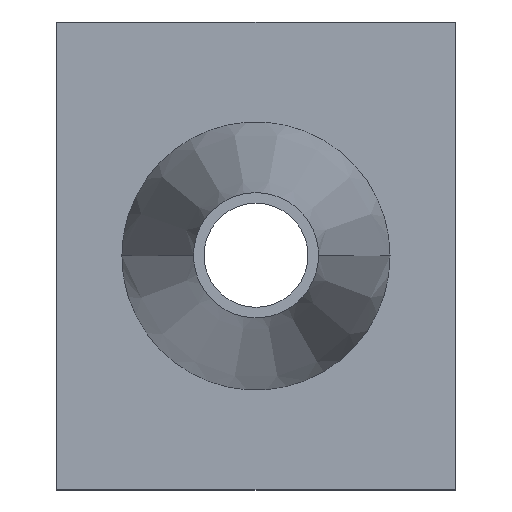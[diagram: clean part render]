
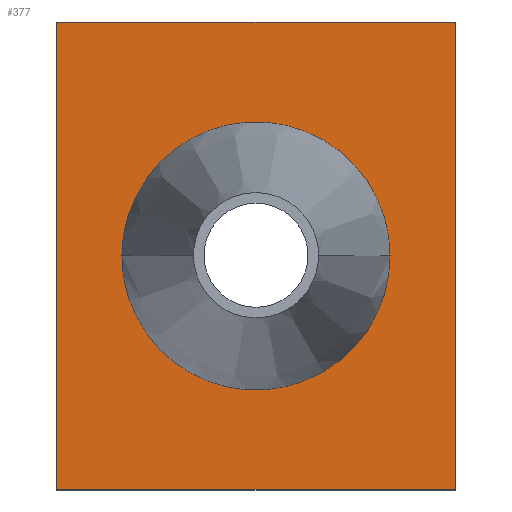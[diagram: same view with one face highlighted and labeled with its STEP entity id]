
A CAD part, top view. The second image highlights one B-rep face of the part: STEP entity #377.
In plain terms, the highlighted planar face has unit normal (0, 0, 1).
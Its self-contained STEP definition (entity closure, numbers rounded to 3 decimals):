
#167=CARTESIAN_POINT('Vertex',(0.,135.,3.)) ;
#174=CARTESIAN_POINT('Vertex',(0.,0.,3.)) ;
#177=CARTESIAN_POINT('Line Origine',(0.,67.5,3.)) ;
#198=CARTESIAN_POINT('Vertex',(115.,135.,3.)) ;
#201=CARTESIAN_POINT('Line Origine',(57.5,135.,3.)) ;
#222=CARTESIAN_POINT('Vertex',(115.,0.,3.)) ;
#225=CARTESIAN_POINT('Line Origine',(115.,67.5,3.)) ;
#242=CARTESIAN_POINT('Line Origine',(57.5,0.,3.)) ;
#324=CARTESIAN_POINT('Axis2P3D Location',(0.,0.,3.)) ;
#336=CARTESIAN_POINT('Control Point',(96.177,67.5,3.)) ;
#337=CARTESIAN_POINT('Control Point',(96.177,73.609,3.)) ;
#338=CARTESIAN_POINT('Control Point',(94.971,79.717,3.)) ;
#339=CARTESIAN_POINT('Control Point',(92.557,85.508,3.)) ;
#340=CARTESIAN_POINT('Control Point',(85.579,95.823,3.)) ;
#341=CARTESIAN_POINT('Control Point',(75.204,102.712,3.)) ;
#342=CARTESIAN_POINT('Control Point',(69.391,105.076,3.)) ;
#343=CARTESIAN_POINT('Control Point',(57.151,107.381,3.)) ;
#344=CARTESIAN_POINT('Control Point',(44.954,104.862,3.)) ;
#345=CARTESIAN_POINT('Control Point',(39.183,102.397,3.)) ;
#346=CARTESIAN_POINT('Control Point',(29.044,95.406,3.)) ;
#347=CARTESIAN_POINT('Control Point',(22.284,85.123,3.)) ;
#348=CARTESIAN_POINT('Control Point',(19.977,79.447,3.)) ;
#349=CARTESIAN_POINT('Control Point',(18.823,73.473,3.)) ;
#350=CARTESIAN_POINT('Control Point',(18.823,67.5,3.)) ;
#351=CARTESIAN_POINT('Vertex',(96.177,67.5,3.)) ;
#353=CARTESIAN_POINT('Vertex',(18.823,67.5,3.)) ;
#357=CARTESIAN_POINT('Control Point',(96.177,67.5,3.)) ;
#358=CARTESIAN_POINT('Control Point',(96.177,61.391,3.)) ;
#359=CARTESIAN_POINT('Control Point',(94.971,55.283,3.)) ;
#360=CARTESIAN_POINT('Control Point',(92.557,49.492,3.)) ;
#361=CARTESIAN_POINT('Control Point',(85.579,39.177,3.)) ;
#362=CARTESIAN_POINT('Control Point',(75.204,32.288,3.)) ;
#363=CARTESIAN_POINT('Control Point',(69.391,29.924,3.)) ;
#364=CARTESIAN_POINT('Control Point',(57.151,27.619,3.)) ;
#365=CARTESIAN_POINT('Control Point',(44.954,30.138,3.)) ;
#366=CARTESIAN_POINT('Control Point',(39.183,32.603,3.)) ;
#367=CARTESIAN_POINT('Control Point',(29.044,39.594,3.)) ;
#368=CARTESIAN_POINT('Control Point',(22.284,49.877,3.)) ;
#369=CARTESIAN_POINT('Control Point',(19.977,55.553,3.)) ;
#370=CARTESIAN_POINT('Control Point',(18.823,61.527,3.)) ;
#371=CARTESIAN_POINT('Control Point',(18.823,67.5,3.)) ;
#178=DIRECTION('Vector Direction',(0.,1.,0.)) ;
#202=DIRECTION('Vector Direction',(-1.,0.,0.)) ;
#226=DIRECTION('Vector Direction',(0.,1.,0.)) ;
#243=DIRECTION('Vector Direction',(1.,0.,0.)) ;
#325=DIRECTION('Axis2P3D Direction',(0.,0.,1.)) ;
#326=DIRECTION('Axis2P3D XDirection',(1.,0.,0.)) ;
#327=AXIS2_PLACEMENT_3D('Plane Axis2P3D',#324,#325,#326) ;
#330=ORIENTED_EDGE('',*,*,#181,.F.) ;
#331=ORIENTED_EDGE('',*,*,#246,.T.) ;
#332=ORIENTED_EDGE('',*,*,#229,.T.) ;
#333=ORIENTED_EDGE('',*,*,#205,.T.) ;
#374=ORIENTED_EDGE('',*,*,#355,.F.) ;
#375=ORIENTED_EDGE('',*,*,#372,.T.) ;
#376=FACE_BOUND('',#373,.T.) ;
#179=VECTOR('Line Direction',#178,1.) ;
#203=VECTOR('Line Direction',#202,1.) ;
#227=VECTOR('Line Direction',#226,1.) ;
#244=VECTOR('Line Direction',#243,1.) ;
#377=ADVANCED_FACE('PartBody',(#334,#376),#328,.T.) ;
#335=B_SPLINE_CURVE_WITH_KNOTS('',5,(#336,#337,#338,#339,#340,#341,#342,#343,#344,#345,#346,#347,#348,#349,#350),.UNSPECIFIED.,.F.,.U.,(6,3,3,3,6),(0.,32.759,65.523,98.287,130.321),.UNSPECIFIED.) ;
#356=B_SPLINE_CURVE_WITH_KNOTS('',5,(#357,#358,#359,#360,#361,#362,#363,#364,#365,#366,#367,#368,#369,#370,#371),.UNSPECIFIED.,.F.,.U.,(6,3,3,3,6),(0.,32.759,65.523,98.287,130.321),.UNSPECIFIED.) ;
#181=EDGE_CURVE('',#175,#168,#180,.T.) ;
#205=EDGE_CURVE('',#199,#168,#204,.T.) ;
#229=EDGE_CURVE('',#223,#199,#228,.T.) ;
#246=EDGE_CURVE('',#175,#223,#245,.T.) ;
#355=EDGE_CURVE('',#352,#354,#335,.T.) ;
#372=EDGE_CURVE('',#352,#354,#356,.T.) ;
#329=EDGE_LOOP('',(#330,#331,#332,#333)) ;
#373=EDGE_LOOP('',(#374,#375)) ;
#334=FACE_OUTER_BOUND('',#329,.T.) ;
#180=LINE('Line',#177,#179) ;
#204=LINE('Line',#201,#203) ;
#228=LINE('Line',#225,#227) ;
#245=LINE('Line',#242,#244) ;
#328=PLANE('',#327) ;
#168=VERTEX_POINT('',#167) ;
#175=VERTEX_POINT('',#174) ;
#199=VERTEX_POINT('',#198) ;
#223=VERTEX_POINT('',#222) ;
#352=VERTEX_POINT('',#351) ;
#354=VERTEX_POINT('',#353) ;
